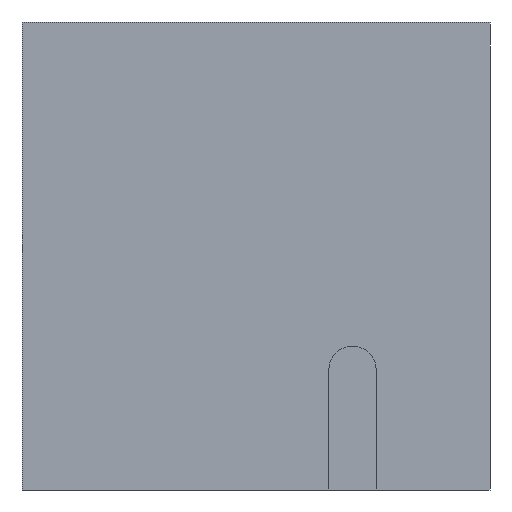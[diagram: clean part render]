
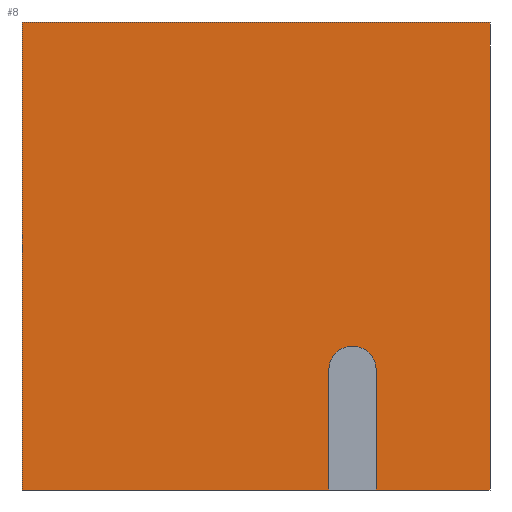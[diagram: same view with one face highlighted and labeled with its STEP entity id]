
A CAD part, front view. The second image highlights one B-rep face of the part: STEP entity #8.
In plain terms, the highlighted planar face has unit normal (0, -1, 0).
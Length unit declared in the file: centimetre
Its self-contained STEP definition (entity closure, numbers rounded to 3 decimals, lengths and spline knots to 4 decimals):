
#5 = VECTOR ( 'NONE', #731, 100. ) ;
#8 = ADVANCED_FACE ( 'NONE', ( #891 ), #1295, .F. ) ;
#29 = CARTESIAN_POINT ( 'NONE',  ( 756.6757, 0., 257.153 ) ) ;
#32 = CARTESIAN_POINT ( 'NONE',  ( 756.6757, 0., 0. ) ) ;
#37 = DIRECTION ( 'NONE',  ( 0., -1., 0. ) ) ;
#42 = DIRECTION ( 'NONE',  ( 1., 0., 0. ) ) ;
#87 = EDGE_CURVE ( 'NONE', #719, #913, #1100, .T. ) ;
#94 = CARTESIAN_POINT ( 'NONE',  ( 1000., 0., 1000. ) ) ;
#101 = ORIENTED_EDGE ( 'NONE', *, *, #1093, .F. ) ;
#108 = VECTOR ( 'NONE', #1002, 100. ) ;
#119 = VERTEX_POINT ( 'NONE', #1061 ) ;
#191 = DIRECTION ( 'NONE',  ( 1., 0., 0. ) ) ;
#198 = AXIS2_PLACEMENT_3D ( 'NONE', #533, #37, #842 ) ;
#215 = VECTOR ( 'NONE', #374, 100. ) ;
#237 = CARTESIAN_POINT ( 'NONE',  ( 0., 0., 0. ) ) ;
#239 = CARTESIAN_POINT ( 'NONE',  ( 0., 0., 1000. ) ) ;
#262 = ORIENTED_EDGE ( 'NONE', *, *, #87, .T. ) ;
#291 = DIRECTION ( 'NONE',  ( 0., 1., 0. ) ) ;
#293 = VERTEX_POINT ( 'NONE', #1282 ) ;
#298 = CARTESIAN_POINT ( 'NONE',  ( 0., 0., 1000. ) ) ;
#301 = VECTOR ( 'NONE', #1108, 100. ) ;
#345 = CARTESIAN_POINT ( 'NONE',  ( 655.7663, 0., 0. ) ) ;
#374 = DIRECTION ( 'NONE',  ( 0., 0., -1. ) ) ;
#375 = EDGE_CURVE ( 'NONE', #119, #609, #735, .T. ) ;
#410 = VERTEX_POINT ( 'NONE', #989 ) ;
#423 = LINE ( 'NONE', #883, #215 ) ;
#478 = VERTEX_POINT ( 'NONE', #1083 ) ;
#533 = CARTESIAN_POINT ( 'NONE',  ( 706.221, 0., 257.153 ) ) ;
#538 = ORIENTED_EDGE ( 'NONE', *, *, #375, .T. ) ;
#584 = CARTESIAN_POINT ( 'NONE',  ( 0., 0., 0. ) ) ;
#586 = VERTEX_POINT ( 'NONE', #239 ) ;
#592 = DIRECTION ( 'NONE',  ( 0., 0., 1. ) ) ;
#595 = VECTOR ( 'NONE', #191, 100. ) ;
#609 = VERTEX_POINT ( 'NONE', #832 ) ;
#668 = ORIENTED_EDGE ( 'NONE', *, *, #968, .F. ) ;
#690 = CARTESIAN_POINT ( 'NONE',  ( 0., 0., 1000. ) ) ;
#709 = EDGE_CURVE ( 'NONE', #293, #410, #933, .T. ) ;
#715 = CARTESIAN_POINT ( 'NONE',  ( 1000., 0., 0. ) ) ;
#719 = VERTEX_POINT ( 'NONE', #32 ) ;
#720 = EDGE_CURVE ( 'NONE', #586, #119, #423, .T. ) ;
#731 = DIRECTION ( 'NONE',  ( 0., 0., -1. ) ) ;
#735 = LINE ( 'NONE', #237, #904 ) ;
#816 = ORIENTED_EDGE ( 'NONE', *, *, #1232, .F. ) ;
#832 = CARTESIAN_POINT ( 'NONE',  ( 655.7663, 0., 0. ) ) ;
#842 = DIRECTION ( 'NONE',  ( 0., 0., 1. ) ) ;
#865 = AXIS2_PLACEMENT_3D ( 'NONE', #298, #291, #592 ) ;
#882 = EDGE_CURVE ( 'NONE', #719, #293, #910, .T. ) ;
#883 = CARTESIAN_POINT ( 'NONE',  ( 0., 0., 1000. ) ) ;
#889 = LINE ( 'NONE', #690, #595 ) ;
#891 = FACE_OUTER_BOUND ( 'NONE', #1144, .T. ) ;
#904 = VECTOR ( 'NONE', #42, 100. ) ;
#910 = LINE ( 'NONE', #29, #1262 ) ;
#913 = VERTEX_POINT ( 'NONE', #715 ) ;
#933 = CIRCLE ( 'NONE', #198, 50.4547 ) ;
#935 = ORIENTED_EDGE ( 'NONE', *, *, #709, .F. ) ;
#952 = LINE ( 'NONE', #345, #5 ) ;
#968 = EDGE_CURVE ( 'NONE', #586, #478, #889, .T. ) ;
#989 = CARTESIAN_POINT ( 'NONE',  ( 655.7663, 0., 257.153 ) ) ;
#1002 = DIRECTION ( 'NONE',  ( 1., 0., 0. ) ) ;
#1061 = CARTESIAN_POINT ( 'NONE',  ( 0., 0., 0. ) ) ;
#1083 = CARTESIAN_POINT ( 'NONE',  ( 1000., 0., 1000. ) ) ;
#1093 = EDGE_CURVE ( 'NONE', #478, #913, #1285, .T. ) ;
#1100 = LINE ( 'NONE', #584, #108 ) ;
#1108 = DIRECTION ( 'NONE',  ( 0., 0., -1. ) ) ;
#1138 = ORIENTED_EDGE ( 'NONE', *, *, #720, .T. ) ;
#1144 = EDGE_LOOP ( 'NONE', ( #538, #816, #935, #1170, #262, #101, #668, #1138 ) ) ;
#1170 = ORIENTED_EDGE ( 'NONE', *, *, #882, .F. ) ;
#1214 = DIRECTION ( 'NONE',  ( 0., 0., 1. ) ) ;
#1232 = EDGE_CURVE ( 'NONE', #410, #609, #952, .T. ) ;
#1262 = VECTOR ( 'NONE', #1214, 100. ) ;
#1282 = CARTESIAN_POINT ( 'NONE',  ( 756.6757, 0., 257.153 ) ) ;
#1285 = LINE ( 'NONE', #94, #301 ) ;
#1295 = PLANE ( 'NONE',  #865 ) ;
